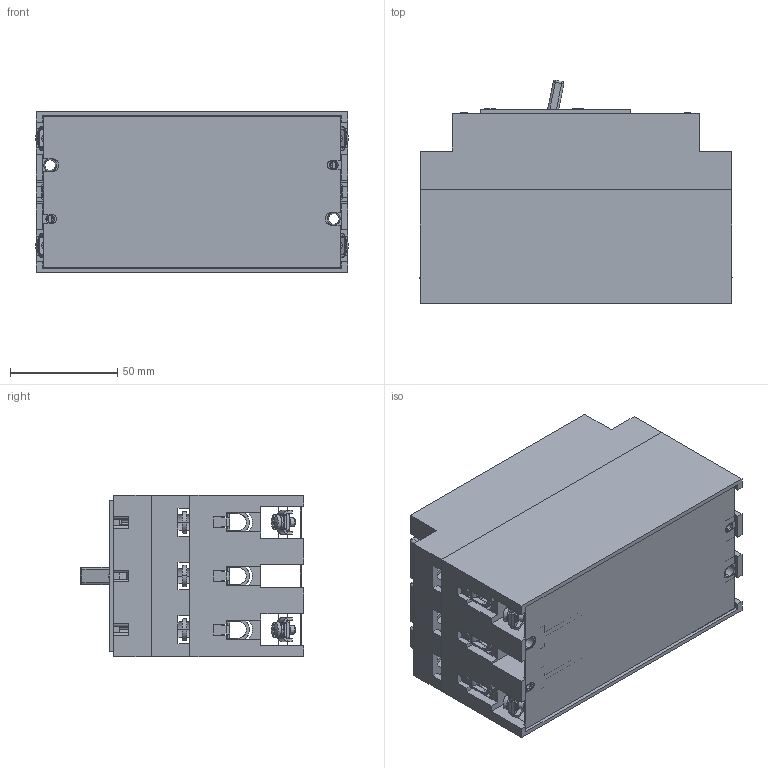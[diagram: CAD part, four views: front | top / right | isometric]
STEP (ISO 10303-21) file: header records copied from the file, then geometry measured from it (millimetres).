
FILE_DESCRIPTION (( 'STEP AP203' ), '1' );
FILE_NAME ('ﾀﾅ 2040ﾌ.STEP', '2013-11-27T10:49:01', ( 'www.PHILka.RU' ), ( 'WareZ Provider ' ), 'SwSTEP 2.0', 'SolidWorks 2007', '' );
FILE_SCHEMA (( 'CONFIG_CONTROL_DESIGN' ));
Products named in the file (1): ﾀﾅ 2040ﾌ
Bounding box: 145.66 x 104.08 x 75 mm (x, y, z)
Surface area: 121598.1 mm2 (no closed solid volume)
Topology: 0 solids, 214 shells, 918 faces, 6525 edges, 5727 vertices
Faces by surface type: plane 641, cylinder 182, bspline 41, sphere 28, cone 18, torus 8
Entity records: 82749 total; most frequent: CARTESIAN_POINT 38450, ORIENTED_EDGE 7975, DIRECTION 7408, EDGE_CURVE 6521, VERTEX_POINT 5727, VECTOR 3946, LINE 3946, AXIS2_PLACEMENT_3D 1731
